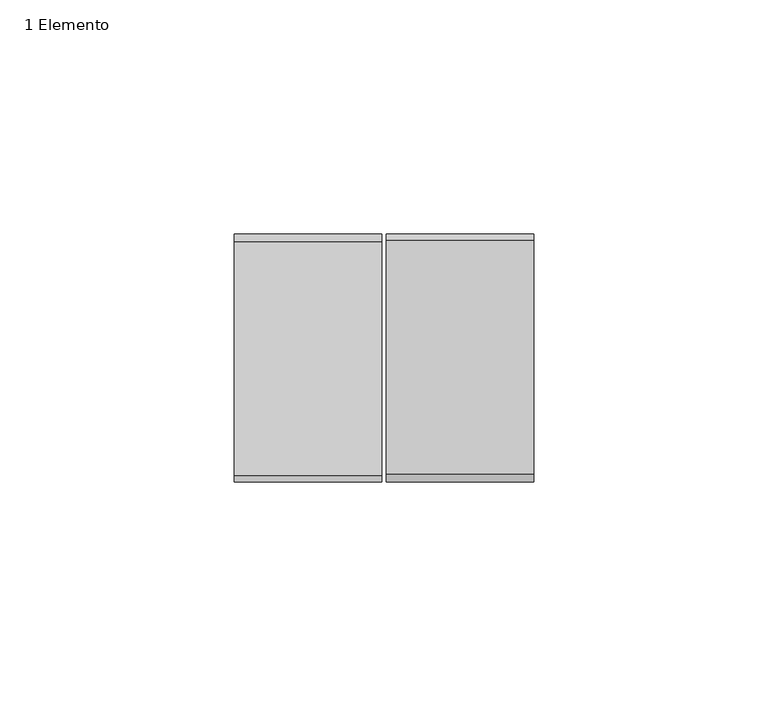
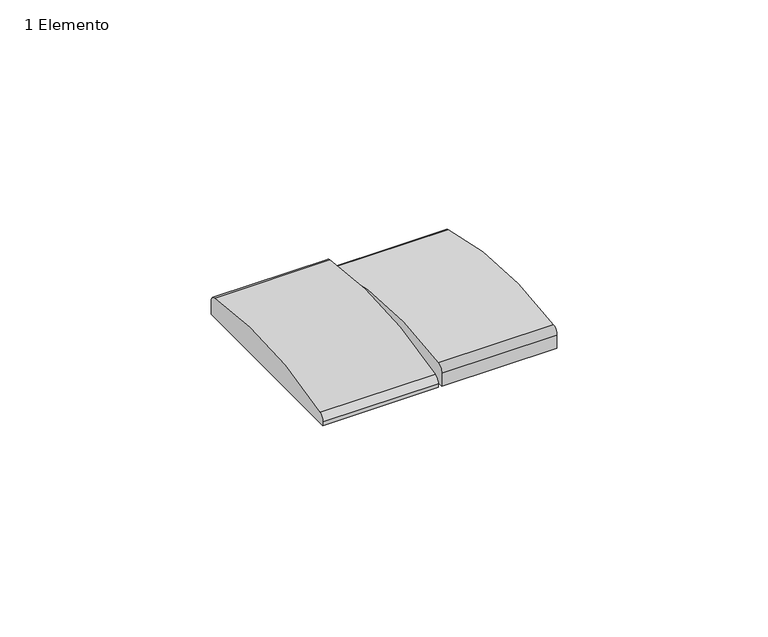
"""IFC4 building model written with IfcOpenShell, lengths in millimetres: proxy geometry, IrisPlus_AluminioMercurio_DobleInterruptor : 1 Elemento."""

import ifcopenshell
import ifcopenshell.guid

model = None  # the IFC model being written
_history = None  # IfcOwnerHistory: only IFC2X3 demands one
_inside = {}  # id of a spatial element -> (the spatial element, [elements in it])
_under = {}  # id of a project, library or spatial element -> (it, [spatial elements below it])
_declared = {}  # id of a project -> (the project, [libraries it declares])
_typed = {}  # id of a type object -> (the type object, [elements of that type])
_made_of = {}  # id of a material, layer set ... -> (it, [elements and type objects made of it])


def new_model(schema):
    """Start an empty IFC model of exactly this schema.

    Asked for "IFC4X3", IfcOpenShell would pick the latest addendum, in which some entities
    have other attributes; the version numbers below select the first issue.
    IFC2X3 requires an IfcOwnerHistory on every rooted entity: one is made here for all.
    """
    global model, _history
    if schema == "IFC4X3":
        model = ifcopenshell.file(schema_version=(4, 3, 0, 0))
    else:
        model = ifcopenshell.file(schema=schema)
    _inside.clear()
    _under.clear()
    _declared.clear()
    _typed.clear()
    _made_of.clear()
    _history = None
    if model.schema == "IFC2X3":
        org = make("IfcOrganization", Name="unknown")
        user = make(
            "IfcPersonAndOrganization",
            ThePerson=make("IfcPerson", FamilyName="unknown"),
            TheOrganization=org,
        )
        app = make(
            "IfcApplication",
            ApplicationDeveloper=org,
            Version="unknown",
            ApplicationFullName="unknown",
            ApplicationIdentifier="unknown",
        )
        _history = make(
            "IfcOwnerHistory",
            OwningUser=user,
            OwningApplication=app,
            ChangeAction="ADDED",
            CreationDate=0,
        )
    return model


def make(cls, **values):
    """One entity of the class cls with the attributes given. An attribute that is None is left unset."""
    return model.create_entity(
        cls, **{name: value for name, value in values.items() if value is not None}
    )


def rooted(cls, **values):
    """An entity with a GlobalId (a new one), such as an element, a storey or a relation."""
    return make(cls, GlobalId=ifcopenshell.guid.new(), OwnerHistory=_history, **values)


def si_unit(unit_type, name, prefix=None):
    """IfcSIUnit, for example si_unit("LENGTHUNIT", "METRE", prefix="MILLI")."""
    return make("IfcSIUnit", UnitType=unit_type, Prefix=prefix, Name=name)


def assignment(units):
    """IfcUnitAssignment: the units of a project."""
    return None if units is None else make("IfcUnitAssignment", Units=units)


def point(xyz):
    """IfcCartesianPoint."""
    return None if xyz is None else make("IfcCartesianPoint", Coordinates=xyz)


def direction(xyz):
    """IfcDirection."""
    return None if xyz is None else make("IfcDirection", DirectionRatios=xyz)


def frame(location, z_axis=None, x_axis=None):
    """IfcAxis2Placement3D, a coordinate frame: its origin and axes. An axis left out is left unset."""
    return make(
        "IfcAxis2Placement3D",
        Location=point(location),
        Axis=direction(z_axis),
        RefDirection=direction(x_axis),
    )


def frame_2d(location, x_axis=None):
    """IfcAxis2Placement2D, a coordinate frame in the plane: its origin and x axis."""
    return make(
        "IfcAxis2Placement2D", Location=point(location), RefDirection=direction(x_axis)
    )


def origin():
    """The frame at (0, 0, 0) with its axes left unset."""
    return frame((0.0, 0.0, 0.0))


def place(relative_to, where):
    """IfcLocalPlacement: puts the frame where relative to a parent placement (None: the world)."""
    return make(
        "IfcLocalPlacement", PlacementRelTo=relative_to, RelativePlacement=where
    )


def context(
    kind, dimensions, precision=None, world=None, true_north=None, identifier=None
):
    """IfcGeometricRepresentationContext, for example the 3D "Model" context."""
    return make(
        "IfcGeometricRepresentationContext",
        ContextIdentifier=identifier,
        ContextType=kind,
        CoordinateSpaceDimension=dimensions,
        Precision=precision,
        WorldCoordinateSystem=world,
        TrueNorth=true_north,
    )


def project(units=None, contexts=None):
    """IfcProject with its units and contexts."""
    return rooted(
        "IfcProject",
        Name="project",
        RepresentationContexts=contexts,
        UnitsInContext=assignment(units),
    )


def spatial(cls, under=None, at=None, **own):
    """A site, building, storey or space (cls), placed at a placement, below another one or the project."""
    s = rooted(cls, ObjectPlacement=at, **own)
    if under is not None:
        _under.setdefault(under.id(), (under, []))[1].append(s)
    return s


def polyline(points):
    """IfcPolyline through the points."""
    return make("IfcPolyline", Points=[point(p) for p in points])


def circle_curve(where, radius):
    """IfcCircle in the frame where."""
    return make("IfcCircle", Position=where, Radius=radius)


def trimmed(basis, trim1, trim2, sense, master):
    """IfcTrimmedCurve: the piece of a basis curve between two trims."""
    return make(
        "IfcTrimmedCurve",
        BasisCurve=basis,
        Trim1=trim1,
        Trim2=trim2,
        SenseAgreement=sense,
        MasterRepresentation=master,
    )


def segment(curve, same_sense, transition):
    """IfcCompositeCurveSegment."""
    return make(
        "IfcCompositeCurveSegment",
        Transition=transition,
        SameSense=same_sense,
        ParentCurve=curve,
    )


def composite_curve(segments, self_intersect=None):
    """IfcCompositeCurve: segments joined end to end."""
    return make("IfcCompositeCurve", Segments=segments, SelfIntersect=self_intersect)


def outline(outer, holes=None, kind="AREA"):
    """IfcArbitraryClosedProfileDef: a profile drawn as a closed curve; with holes, ...WithVoids."""
    if holes is None:
        return make("IfcArbitraryClosedProfileDef", ProfileType=kind, OuterCurve=outer)
    return make(
        "IfcArbitraryProfileDefWithVoids",
        ProfileType=kind,
        OuterCurve=outer,
        InnerCurves=holes,
    )


def extrude(swept, where, along, depth):
    """IfcExtrudedAreaSolid: the profile swept, set in the frame where, extruded along a direction by depth."""
    return make(
        "IfcExtrudedAreaSolid",
        SweptArea=swept,
        Position=where,
        ExtrudedDirection=direction(along),
        Depth=depth,
    )


def shape(context_of_items, identifier, shape_type, items):
    """IfcShapeRepresentation: the items that make up one representation, for example the "Body"."""
    return make(
        "IfcShapeRepresentation",
        ContextOfItems=context_of_items,
        RepresentationIdentifier=identifier,
        RepresentationType=shape_type,
        Items=items,
    )


def source(mapping_origin, context_of_items, identifier, shape_type, items):
    """IfcRepresentationMap: a shape defined once, which mapped items show again and again."""
    return make(
        "IfcRepresentationMap",
        MappingOrigin=mapping_origin,
        MappedRepresentation=shape(context_of_items, identifier, shape_type, items),
    )


def transform(
    local_origin,
    x_axis=None,
    y_axis=None,
    z_axis=None,
    scale=None,
    scale2=None,
    scale3=None,
    uniform=True,
):
    """IfcCartesianTransformationOperator3D, or its non-uniform kind. x_axis, y_axis, z_axis: its Axis1, 2, 3."""
    if uniform:
        return make(
            "IfcCartesianTransformationOperator3D",
            Axis1=direction(x_axis),
            Axis2=direction(y_axis),
            LocalOrigin=point(local_origin),
            Scale=scale,
            Axis3=direction(z_axis),
        )
    return make(
        "IfcCartesianTransformationOperator3DnonUniform",
        Axis1=direction(x_axis),
        Axis2=direction(y_axis),
        LocalOrigin=point(local_origin),
        Scale=scale,
        Axis3=direction(z_axis),
        Scale2=scale2,
        Scale3=scale3,
    )


def mapped(mapping_source, mapping_target):
    """IfcMappedItem: shows the shape of a source again, moved by a transform."""
    return make(
        "IfcMappedItem", MappingSource=mapping_source, MappingTarget=mapping_target
    )


def made_of(thing, what):
    """Note that an element or type object is made of a material, layer set ...; save() writes the relation."""
    if what is not None:
        _made_of.setdefault(what.id(), (what, []))[1].append(thing)
    return thing


def element(
    cls,
    number,
    at=None,
    inside=None,
    cuts=None,
    type_object=None,
    material=None,
    context=None,
    identifier="Body",
    shape_type=None,
    held_by="IfcProductDefinitionShape",
    body=None,
    shapes=None,
    **own,
):
    """One element of the class cls, such as IfcWall. Its Tag is "e" and its number.

    at: its placement. inside: the storey or other place that contains it. cuts: it is an
    opening in that element (IfcRelVoidsElement). A single representation is given by context,
    identifier, shape_type and body (its items); several are given by shapes. held_by: the class
    of the entity that holds the representations. save() writes the other relations.
    """
    e = rooted(cls, Tag="e%d" % number, ObjectPlacement=at, **own)
    if body is not None:
        shapes = [shape(context, identifier, shape_type, body)]
    if shapes is not None:
        e.Representation = make(held_by, Representations=shapes)
    if inside is not None:
        _inside.setdefault(inside.id(), (inside, []))[1].append(e)
    if cuts is not None:
        rooted(
            "IfcRelVoidsElement", RelatingBuildingElement=cuts, RelatedOpeningElement=e
        )
    if type_object is not None:
        _typed.setdefault(type_object.id(), (type_object, []))[1].append(e)
    return made_of(e, material)


def aggregate(whole, parts):
    """IfcRelAggregates: a whole, such as a stair, and the parts it consists of."""
    return rooted("IfcRelAggregates", RelatingObject=whole, RelatedObjects=parts)


def save(model, path):
    """Write the relations noted so far, then the file.

    IfcRelAggregates (storeys below a building ...), IfcRelContainedInSpatialStructure (elements
    in a storey), IfcRelDefinesByType, IfcRelAssociatesMaterial and IfcRelDeclares: one each for
    every whole, place, type object, material and project.
    """
    for whole, parts in _under.values():
        aggregate(whole, parts)
    for where, things in _inside.values():
        rooted(
            "IfcRelContainedInSpatialStructure",
            RelatedElements=things,
            RelatingStructure=where,
        )
    for kind, things in _typed.values():
        rooted("IfcRelDefinesByType", RelatedObjects=things, RelatingType=kind)
    for what, things in _made_of.values():
        rooted("IfcRelAssociatesMaterial", RelatedObjects=things, RelatingMaterial=what)
    for by, libraries in _declared.values():
        rooted("IfcRelDeclares", RelatingContext=by, RelatedDefinitions=libraries)
    model.write(path)


def proxy_1_elemento_e30dc943(model_context):
    return source(origin(), model_context, "Body", "SweptSolid", [
        extrude(outline(composite_curve([segment(polyline([(-26.5, 3.5), (-26.5, 7.25853)]), True, "CONTINUOUS"), segment(trimmed(circle_curve(frame_2d((-24.5, 7.25853)), 2.0), [point((-26.5, 7.25853))], [point((-24.864469, 9.2250402))], False, "CARTESIAN"), True, "CONTINUOUS"), segment(trimmed(circle_curve(frame_2d((-5.5476114, -95.0)), 106.0), [point((-24.864469, 9.2250402))], [point((25.0778387, 6.479465))], False, "CARTESIAN"), True, "CONTINUOUS"), segment(trimmed(circle_curve(frame_2d((24.5, 4.5647581)), 2.0), [point((25.0778387, 6.479465))], [point((26.5, 4.5647581))], False, "CARTESIAN"), True, "CONTINUOUS"), segment(polyline([(26.5, 4.5647581), (26.5, 3.5), (-26.5, 3.5)]), True, "CONTINUOUS")], self_intersect=False)), frame((0.5, 0.0, 0.0), z_axis=(1.0, 0.0, 0.0), x_axis=(0.0, 1.0, 0.0)), (0.0, 0.0, 1.0), 31.5),
        extrude(outline(composite_curve([segment(polyline([(26.5, 3.5), (-26.5, 3.5), (-26.5, 4.5647581)]), True, "CONTINUOUS"), segment(trimmed(circle_curve(frame_2d((-24.5, 4.5647581)), 2.0), [point((-26.5, 4.5647581))], [point((-25.0778387, 6.479465))], False, "CARTESIAN"), True, "CONTINUOUS"), segment(trimmed(circle_curve(frame_2d((5.5476114, -95.0)), 106.0), [point((-25.0778387, 6.479465))], [point((24.864469, 9.2250402))], False, "CARTESIAN"), True, "CONTINUOUS"), segment(trimmed(circle_curve(frame_2d((24.5, 7.25853)), 2.0), [point((24.864469, 9.2250402))], [point((26.5, 7.25853))], False, "CARTESIAN"), True, "CONTINUOUS"), segment(polyline([(26.5, 7.25853), (26.5, 3.5)]), True, "CONTINUOUS")], self_intersect=False)), frame((-32.0, 0.0, 0.0), z_axis=(1.0, 0.0, 0.0), x_axis=(0.0, 1.0, 0.0)), (0.0, 0.0, 1.0), 31.5),
    ])


if __name__ == "__main__":
    model = new_model("IFC4")
    model_context = context("Model", 3, world=origin())
    ifc_project = project(units=[si_unit("LENGTHUNIT", "METRE", prefix="MILLI")], contexts=[model_context])
    site = spatial("IfcSite", under=ifc_project)
    building = spatial("IfcBuilding", under=site)
    placement = place(None, origin())
    proxy_1_elemento_shape = proxy_1_elemento_e30dc943(model_context)
    element("IfcBuildingElementProxy", 1, Name="IrisPlus_AluminioMercurio_DobleInterruptor : 1 Elemento", ObjectType="IrisPlus_AluminioMercurio_DobleInterruptor : 1 Elemento", at=placement, inside=building, context=model_context, shape_type="MappedRepresentation", body=[
        mapped(proxy_1_elemento_shape, transform((0.0, 0.0, 0.0), x_axis=(1.0, 0.0, 0.0), y_axis=(0.0, 1.0, 0.0), z_axis=(0.0, 0.0, 1.0))),
    ])
    save(model, "model.ifc")
